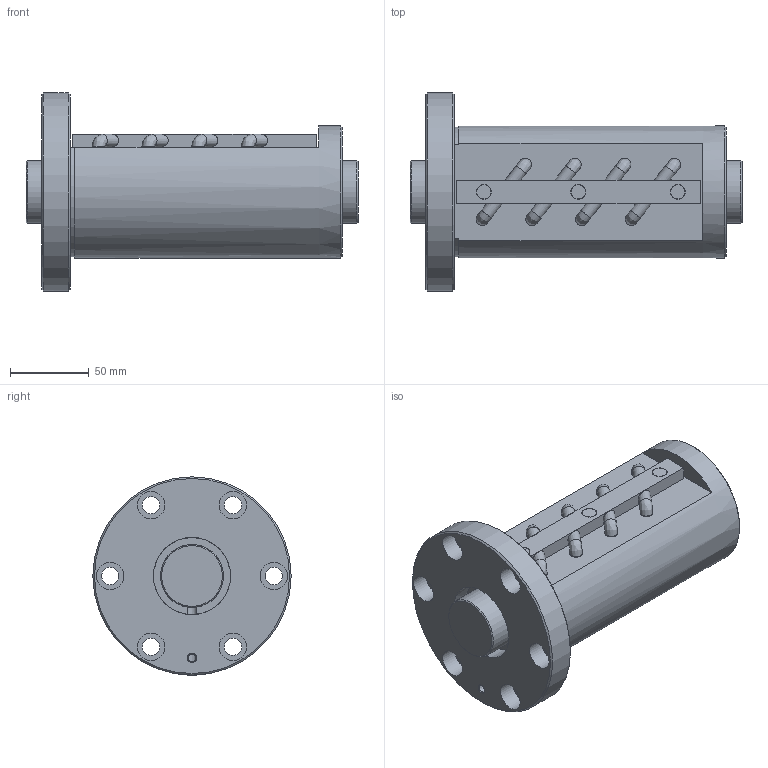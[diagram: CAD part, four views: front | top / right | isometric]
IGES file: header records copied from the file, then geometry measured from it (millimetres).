
Start section: Data from Parasolid IGES Translator 26.0.171, Copyright(c) 2006 Siemens PLM Software. All Rights Reserved.
Global section: file name: BIF4012V-10RRG0+211LC0_000.igs; native system: By Siemens PLM Incorporated; preprocessor: XPlus GENERIC/IGES 26.0.171; author: Noname; organization: Noname; date: 20240715.082444; units: millimetre
Bounding box: 211 x 126 x 126 mm (x, y, z)
Surface area: 138970.9 mm2 (no closed solid volume)
Topology: 0 solids, 0 shells, 128 faces, 616 edges, 581 vertices
Faces by surface type: revolution 75, extrusion 53
